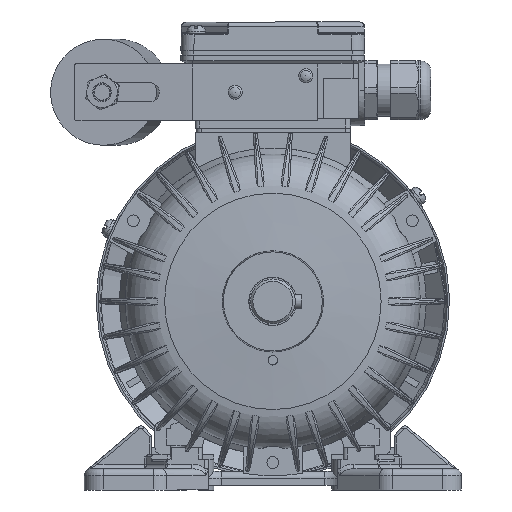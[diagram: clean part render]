
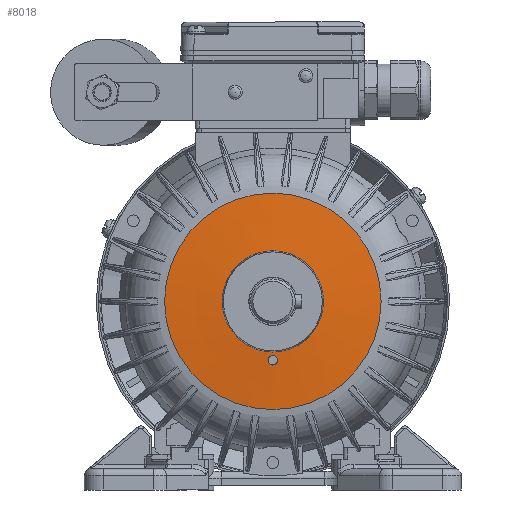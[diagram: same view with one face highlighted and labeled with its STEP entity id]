
A CAD part, left-side view. The second image highlights one B-rep face of the part: STEP entity #8018.
In plain terms, the highlighted conical face has half-angle 85.5 degrees and reference radius 21.472 mm.
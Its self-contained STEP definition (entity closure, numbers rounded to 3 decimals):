
#8018 = ADVANCED_FACE( '', ( #16322, #16323, #16324 ), #16325, .T. );
#16322 = FACE_OUTER_BOUND( '', #49961, .T. );
#16323 = FACE_BOUND( '', #49962, .T. );
#16324 = FACE_BOUND( '', #49963, .T. );
#16325 = CONICAL_SURFACE( '', #49964, 21.472, 1.492 );
#49961 = EDGE_LOOP( '', ( #77169 ) );
#49962 = EDGE_LOOP( '', ( #77170 ) );
#49963 = EDGE_LOOP( '', ( #77171 ) );
#49964 = AXIS2_PLACEMENT_3D( '', #77172, #77173, #77174 );
#77169 = ORIENTED_EDGE( '', *, *, #89601, .T. );
#77170 = ORIENTED_EDGE( '', *, *, #88540, .F. );
#77171 = ORIENTED_EDGE( '', *, *, #88054, .T. );
#77172 = CARTESIAN_POINT( '', ( 0., 6., 0. ) );
#77173 = DIRECTION( '', ( 0., 1., 0. ) );
#77174 = DIRECTION( '', ( 0., 0., 1. ) );
#88054 = EDGE_CURVE( '', #103538, #103538, #103539, .T. );
#88540 = EDGE_CURVE( '', #104154, #104154, #104155, .T. );
#89601 = EDGE_CURVE( '', #105456, #105456, #105457, .T. );
#103538 = VERTEX_POINT( '', #142001 );
#103539 = B_SPLINE_CURVE_WITH_KNOTS( '', 3, ( #142002, #142003, #142004, #142005, #142006, #142007, #142008, #142009, #142010, #142011, #142012, #142013, #142014, #142015, #142016, #142017, #142018, #142019, #142020, #142021, #142022, #142023, #142024, #142025, #142026, #142027, #142028, #142029, #142030, #142031, #142032, #142033, #142034, #142035, #142036, #142037, #142038, #142039, #142040, #142041, #142042, #142043, #142044, #142045, #142046, #142047, #142048, #142049, #142050, #142051, #142052, #142053, #142054, #142055, #142056, #142057 ), .UNSPECIFIED., .T., .F., ( 2, 2, 2, 2, 2, 2, 2, 2, 2, 2, 2, 2, 2, 2, 2, 2, 2, 2, 2, 2, 2, 2, 2, 2, 2, 2, 2, 2, 2, 2 ), ( -0.001, 0., 0., 0.001, 0.001, 0.002, 0.002, 0.003, 0.004, 0.004, 0.004, 0.005, 0.005, 0.005, 0.006, 0.006, 0.007, 0.007, 0.008, 0.008, 0.009, 0.009, 0.009, 0.01, 0.011, 0.011, 0.011, 0.012, 0.013, 0.013 ), .UNSPECIFIED. );
#104154 = VERTEX_POINT( '', #144180 );
#104155 = CIRCLE( '', #144181, 21.472 );
#105456 = VERTEX_POINT( '', #149347 );
#105457 = CIRCLE( '', #149348, 45.912 );
#142001 = CARTESIAN_POINT( '', ( -1.41, 6.392, -26.418 ) );
#142002 = CARTESIAN_POINT( '', ( -1.223, 6.406, -26.605 ) );
#142003 = CARTESIAN_POINT( '', ( -1.504, 6.385, -26.325 ) );
#142004 = CARTESIAN_POINT( '', ( -1.587, 6.378, -26.224 ) );
#142005 = CARTESIAN_POINT( '', ( -1.732, 6.362, -26.008 ) );
#142006 = CARTESIAN_POINT( '', ( -1.795, 6.353, -25.891 ) );
#142007 = CARTESIAN_POINT( '', ( -1.896, 6.334, -25.65 ) );
#142008 = CARTESIAN_POINT( '', ( -1.934, 6.325, -25.525 ) );
#142009 = CARTESIAN_POINT( '', ( -1.986, 6.305, -25.269 ) );
#142010 = CARTESIAN_POINT( '', ( -2., 6.295, -25.137 ) );
#142011 = CARTESIAN_POINT( '', ( -2.001, 6.264, -24.746 ) );
#142012 = CARTESIAN_POINT( '', ( -1.95, 6.243, -24.483 ) );
#142013 = CARTESIAN_POINT( '', ( -1.752, 6.204, -24.002 ) );
#142014 = CARTESIAN_POINT( '', ( -1.605, 6.186, -23.778 ) );
#142015 = CARTESIAN_POINT( '', ( -1.329, 6.163, -23.5 ) );
#142016 = CARTESIAN_POINT( '', ( -1.227, 6.155, -23.415 ) );
#142017 = CARTESIAN_POINT( '', ( -1.01, 6.143, -23.269 ) );
#142018 = CARTESIAN_POINT( '', ( -0.895, 6.138, -23.207 ) );
#142019 = CARTESIAN_POINT( '', ( -0.654, 6.129, -23.105 ) );
#142020 = CARTESIAN_POINT( '', ( -0.526, 6.126, -23.066 ) );
#142021 = CARTESIAN_POINT( '', ( -0.271, 6.121, -23.014 ) );
#142022 = CARTESIAN_POINT( '', ( -0.141, 6.12, -23.001 ) );
#142023 = CARTESIAN_POINT( '', ( 0.124, 6.12, -22.999 ) );
#142024 = CARTESIAN_POINT( '', ( 0.254, 6.121, -23.012 ) );
#142025 = CARTESIAN_POINT( '', ( 0.51, 6.126, -23.062 ) );
#142026 = CARTESIAN_POINT( '', ( 0.638, 6.129, -23.1 ) );
#142027 = CARTESIAN_POINT( '', ( 0.881, 6.137, -23.199 ) );
#142028 = CARTESIAN_POINT( '', ( 0.996, 6.142, -23.261 ) );
#142029 = CARTESIAN_POINT( '', ( 1.214, 6.155, -23.405 ) );
#142030 = CARTESIAN_POINT( '', ( 1.317, 6.162, -23.489 ) );
#142031 = CARTESIAN_POINT( '', ( 1.502, 6.177, -23.673 ) );
#142032 = CARTESIAN_POINT( '', ( 1.585, 6.185, -23.773 ) );
#142033 = CARTESIAN_POINT( '', ( 1.732, 6.203, -23.991 ) );
#142034 = CARTESIAN_POINT( '', ( 1.795, 6.213, -24.107 ) );
#142035 = CARTESIAN_POINT( '', ( 1.945, 6.242, -24.468 ) );
#142036 = CARTESIAN_POINT( '', ( 1.999, 6.263, -24.73 ) );
#142037 = CARTESIAN_POINT( '', ( 2.001, 6.293, -25.121 ) );
#142038 = CARTESIAN_POINT( '', ( 1.988, 6.304, -25.253 ) );
#142039 = CARTESIAN_POINT( '', ( 1.938, 6.324, -25.509 ) );
#142040 = CARTESIAN_POINT( '', ( 1.901, 6.333, -25.634 ) );
#142041 = CARTESIAN_POINT( '', ( 1.803, 6.352, -25.876 ) );
#142042 = CARTESIAN_POINT( '', ( 1.74, 6.36, -25.994 ) );
#142043 = CARTESIAN_POINT( '', ( 1.597, 6.377, -26.211 ) );
#142044 = CARTESIAN_POINT( '', ( 1.515, 6.384, -26.313 ) );
#142045 = CARTESIAN_POINT( '', ( 1.237, 6.405, -26.594 ) );
#142046 = CARTESIAN_POINT( '', ( 1.017, 6.416, -26.742 ) );
#142047 = CARTESIAN_POINT( '', ( 0.653, 6.427, -26.895 ) );
#142048 = CARTESIAN_POINT( '', ( 0.529, 6.43, -26.933 ) );
#142049 = CARTESIAN_POINT( '', ( 0.272, 6.434, -26.986 ) );
#142050 = CARTESIAN_POINT( '', ( 0.14, 6.435, -26.999 ) );
#142051 = CARTESIAN_POINT( '', ( -0.122, 6.435, -27.001 ) );
#142052 = CARTESIAN_POINT( '', ( -0.252, 6.434, -26.988 ) );
#142053 = CARTESIAN_POINT( '', ( -0.51, 6.431, -26.938 ) );
#142054 = CARTESIAN_POINT( '', ( -0.637, 6.428, -26.9 ) );
#142055 = CARTESIAN_POINT( '', ( -0.999, 6.417, -26.752 ) );
#142056 = CARTESIAN_POINT( '', ( -1.223, 6.406, -26.605 ) );
#142057 = CARTESIAN_POINT( '', ( -1.504, 6.385, -26.325 ) );
#144180 = CARTESIAN_POINT( '', ( 0., 6., -21.472 ) );
#144181 = AXIS2_PLACEMENT_3D( '', #161891, #161892, #161893 );
#149347 = CARTESIAN_POINT( '', ( 0., 7.923, -45.912 ) );
#149348 = AXIS2_PLACEMENT_3D( '', #163088, #163089, #163090 );
#161891 = CARTESIAN_POINT( '', ( 0., 6., 0. ) );
#161892 = DIRECTION( '', ( 0., -1., 0. ) );
#161893 = DIRECTION( '', ( 0., 0., -1. ) );
#163088 = CARTESIAN_POINT( '', ( 0., 7.923, 0. ) );
#163089 = DIRECTION( '', ( 0., -1., 0. ) );
#163090 = DIRECTION( '', ( 0., 0., -1. ) );
